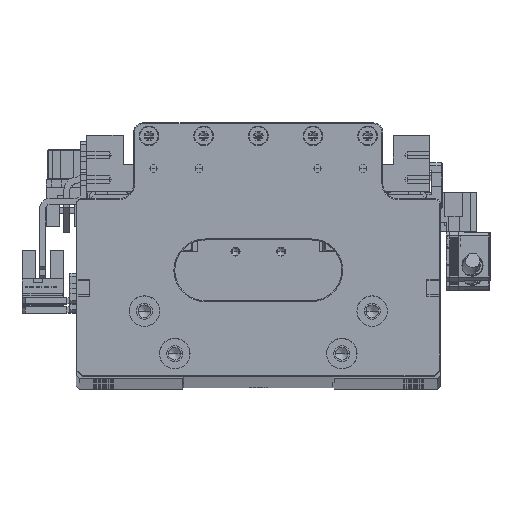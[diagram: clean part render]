
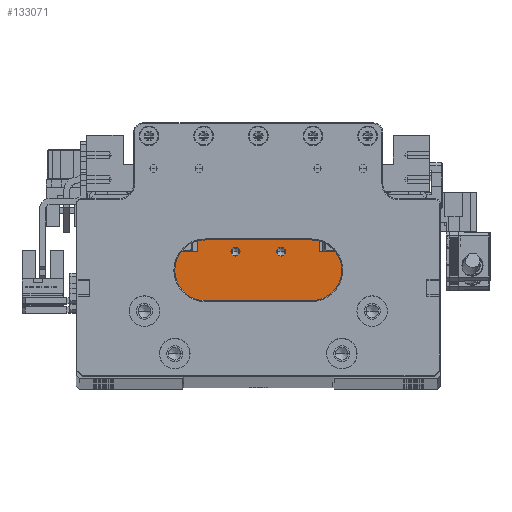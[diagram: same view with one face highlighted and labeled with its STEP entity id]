
A CAD part, top view. The second image highlights one B-rep face of the part: STEP entity #133071.
In plain terms, the highlighted planar face has unit normal (0, 0, 1).
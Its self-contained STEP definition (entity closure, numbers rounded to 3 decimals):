
#209 = CARTESIAN_POINT ( 'NONE',  ( 18.306, -1.296, 411.036 ) ) ;
#3693 = VECTOR ( 'NONE', #44314, 1000. ) ;
#4333 = EDGE_CURVE ( 'NONE', #108017, #139441, #136511, .T. ) ;
#5662 = LINE ( 'NONE', #32514, #35392 ) ;
#6244 = DIRECTION ( 'NONE',  ( 1., 0., 0. ) ) ;
#7707 = VECTOR ( 'NONE', #86623, 1000. ) ;
#9087 = CARTESIAN_POINT ( 'NONE',  ( -31.594, -1.296, 411.036 ) ) ;
#10440 = LINE ( 'NONE', #82716, #43635 ) ;
#11124 = CARTESIAN_POINT ( 'NONE',  ( -9.194, -12.996, 411.036 ) ) ;
#12689 = CIRCLE ( 'NONE', #66334, 1.525 ) ;
#13007 = FACE_BOUND ( 'NONE', #27360, .T. ) ;
#14879 = CIRCLE ( 'NONE', #79392, 1.525 ) ;
#15269 = VERTEX_POINT ( 'NONE', #106542 ) ;
#15591 = ORIENTED_EDGE ( 'NONE', *, *, #124529, .F. ) ;
#15763 = DIRECTION ( 'NONE',  ( 1., 0., 0. ) ) ;
#17647 = DIRECTION ( 'NONE',  ( 0., 0., 1. ) ) ;
#17919 = EDGE_CURVE ( 'NONE', #85945, #139441, #119144, .T. ) ;
#18572 = CARTESIAN_POINT ( 'NONE',  ( 28.206, -12.996, 411.036 ) ) ;
#19721 = CARTESIAN_POINT ( 'NONE',  ( -9.194, 6.204, 411.036 ) ) ;
#19741 = ORIENTED_EDGE ( 'NONE', *, *, #43901, .F. ) ;
#20051 = ORIENTED_EDGE ( 'NONE', *, *, #57656, .F. ) ;
#20252 = DIRECTION ( 'NONE',  ( 0., 0., 1. ) ) ;
#21243 = CIRCLE ( 'NONE', #131280, 1.525 ) ;
#21406 = LINE ( 'NONE', #9087, #51106 ) ;
#22458 = DIRECTION ( 'NONE',  ( 0., 0., 1. ) ) ;
#24508 = EDGE_LOOP ( 'NONE', ( #136925, #15591, #52573, #53745, #120784, #121642, #86216, #63729 ) ) ;
#27360 = EDGE_LOOP ( 'NONE', ( #78673, #128281 ) ) ;
#32514 = CARTESIAN_POINT ( 'NONE',  ( -9.194, 6.204, 411.036 ) ) ;
#33022 = CARTESIAN_POINT ( 'NONE',  ( 28.206, 6.204, 411.036 ) ) ;
#33439 = DIRECTION ( 'NONE',  ( 0., 1., 0. ) ) ;
#34937 = EDGE_CURVE ( 'NONE', #68145, #114138, #70652, .T. ) ;
#35392 = VECTOR ( 'NONE', #122007, 1000. ) ;
#40189 = EDGE_CURVE ( 'NONE', #15269, #109538, #14879, .T. ) ;
#42711 = FACE_BOUND ( 'NONE', #112162, .T. ) ;
#43635 = VECTOR ( 'NONE', #15763, 1000. ) ;
#43901 = EDGE_CURVE ( 'NONE', #99760, #89171, #21243, .T. ) ;
#44314 = DIRECTION ( 'NONE',  ( 1., 0., 0. ) ) ;
#51106 = VECTOR ( 'NONE', #75998, 1000. ) ;
#51722 = AXIS2_PLACEMENT_3D ( 'NONE', #79075, #57055, #135346 ) ;
#52417 = CARTESIAN_POINT ( 'NONE',  ( -31.594, -12.996, 411.036 ) ) ;
#52573 = ORIENTED_EDGE ( 'NONE', *, *, #17919, .T. ) ;
#53745 = ORIENTED_EDGE ( 'NONE', *, *, #4333, .F. ) ;
#57055 = DIRECTION ( 'NONE',  ( 0., 0., -1. ) ) ;
#57410 = LINE ( 'NONE', #134204, #143215 ) ;
#57656 = EDGE_CURVE ( 'NONE', #89171, #99760, #12689, .T. ) ;
#63729 = ORIENTED_EDGE ( 'NONE', *, *, #127386, .F. ) ;
#63797 = EDGE_CURVE ( 'NONE', #109538, #15269, #144478, .T. ) ;
#66334 = AXIS2_PLACEMENT_3D ( 'NONE', #89369, #22458, #100628 ) ;
#66337 = CARTESIAN_POINT ( 'NONE',  ( -31.594, 6.204, 411.036 ) ) ;
#67673 = DIRECTION ( 'NONE',  ( 0., -1., 0. ) ) ;
#67732 = VERTEX_POINT ( 'NONE', #122174 ) ;
#68145 = VERTEX_POINT ( 'NONE', #66337 ) ;
#70652 = LINE ( 'NONE', #19721, #7707 ) ;
#73189 = DIRECTION ( 'NONE',  ( 0., 0., 1. ) ) ;
#75998 = DIRECTION ( 'NONE',  ( 0., 1., 0. ) ) ;
#76978 = VECTOR ( 'NONE', #144960, 1000. ) ;
#78621 = VERTEX_POINT ( 'NONE', #118787 ) ;
#78673 = ORIENTED_EDGE ( 'NONE', *, *, #63797, .F. ) ;
#79075 = CARTESIAN_POINT ( 'NONE',  ( -9.194, -1.296, 411.036 ) ) ;
#79392 = AXIS2_PLACEMENT_3D ( 'NONE', #87174, #20252, #98430 ) ;
#79555 = CARTESIAN_POINT ( 'NONE',  ( -21.694, 10.204, 411.036 ) ) ;
#82716 = CARTESIAN_POINT ( 'NONE',  ( -9.194, 10.204, 411.036 ) ) ;
#84568 = CARTESIAN_POINT ( 'NONE',  ( 5.806, 6.304, 411.036 ) ) ;
#85945 = VERTEX_POINT ( 'NONE', #52417 ) ;
#86216 = ORIENTED_EDGE ( 'NONE', *, *, #100875, .F. ) ;
#86623 = DIRECTION ( 'NONE',  ( 1., 0., 0. ) ) ;
#86819 = CARTESIAN_POINT ( 'NONE',  ( 4.281, 6.304, 411.036 ) ) ;
#87174 = CARTESIAN_POINT ( 'NONE',  ( -9.194, 6.304, 411.036 ) ) ;
#89127 = CARTESIAN_POINT ( 'NONE',  ( 28.206, -1.296, 411.036 ) ) ;
#89171 = VERTEX_POINT ( 'NONE', #86819 ) ;
#89369 = CARTESIAN_POINT ( 'NONE',  ( 5.806, 6.304, 411.036 ) ) ;
#92276 = VECTOR ( 'NONE', #67673, 1000. ) ;
#94500 = EDGE_CURVE ( 'NONE', #67732, #108017, #5662, .T. ) ;
#95772 = DIRECTION ( 'NONE',  ( 1., 0., 0. ) ) ;
#98430 = DIRECTION ( 'NONE',  ( 1., 0., 0. ) ) ;
#99760 = VERTEX_POINT ( 'NONE', #117251 ) ;
#100628 = DIRECTION ( 'NONE',  ( 1., 0., 0. ) ) ;
#100875 = EDGE_CURVE ( 'NONE', #126899, #78621, #10440, .T. ) ;
#103352 = AXIS2_PLACEMENT_3D ( 'NONE', #140264, #73189, #6244 ) ;
#106542 = CARTESIAN_POINT ( 'NONE',  ( -10.719, 6.304, 411.036 ) ) ;
#108017 = VERTEX_POINT ( 'NONE', #33022 ) ;
#109538 = VERTEX_POINT ( 'NONE', #110166 ) ;
#110166 = CARTESIAN_POINT ( 'NONE',  ( -7.669, 6.304, 411.036 ) ) ;
#112162 = EDGE_LOOP ( 'NONE', ( #19741, #20051 ) ) ;
#114138 = VERTEX_POINT ( 'NONE', #144276 ) ;
#117251 = CARTESIAN_POINT ( 'NONE',  ( 7.331, 6.304, 411.036 ) ) ;
#118787 = CARTESIAN_POINT ( 'NONE',  ( 18.306, 10.204, 411.036 ) ) ;
#119144 = LINE ( 'NONE', #11124, #3693 ) ;
#120228 = EDGE_CURVE ( 'NONE', #78621, #67732, #125555, .T. ) ;
#120784 = ORIENTED_EDGE ( 'NONE', *, *, #94500, .F. ) ;
#121642 = ORIENTED_EDGE ( 'NONE', *, *, #120228, .F. ) ;
#122007 = DIRECTION ( 'NONE',  ( 1., 0., 0. ) ) ;
#122174 = CARTESIAN_POINT ( 'NONE',  ( 18.306, 6.204, 411.036 ) ) ;
#124066 = PLANE ( 'NONE',  #51722 ) ;
#124529 = EDGE_CURVE ( 'NONE', #85945, #68145, #21406, .T. ) ;
#124911 = FACE_OUTER_BOUND ( 'NONE', #24508, .T. ) ;
#125555 = LINE ( 'NONE', #209, #92276 ) ;
#126899 = VERTEX_POINT ( 'NONE', #79555 ) ;
#127386 = EDGE_CURVE ( 'NONE', #114138, #126899, #57410, .T. ) ;
#128281 = ORIENTED_EDGE ( 'NONE', *, *, #40189, .F. ) ;
#131280 = AXIS2_PLACEMENT_3D ( 'NONE', #84568, #17647, #95772 ) ;
#133071 = ADVANCED_FACE ( 'NONE', ( #124911, #42711, #13007 ), #124066, .F. ) ;
#134204 = CARTESIAN_POINT ( 'NONE',  ( -21.694, -1.296, 411.036 ) ) ;
#135346 = DIRECTION ( 'NONE',  ( -1., 0., 0. ) ) ;
#136511 = LINE ( 'NONE', #89127, #76978 ) ;
#136925 = ORIENTED_EDGE ( 'NONE', *, *, #34937, .F. ) ;
#139441 = VERTEX_POINT ( 'NONE', #18572 ) ;
#140264 = CARTESIAN_POINT ( 'NONE',  ( -9.194, 6.304, 411.036 ) ) ;
#143215 = VECTOR ( 'NONE', #33439, 1000. ) ;
#144276 = CARTESIAN_POINT ( 'NONE',  ( -21.694, 6.204, 411.036 ) ) ;
#144478 = CIRCLE ( 'NONE', #103352, 1.525 ) ;
#144960 = DIRECTION ( 'NONE',  ( 0., -1., 0. ) ) ;
